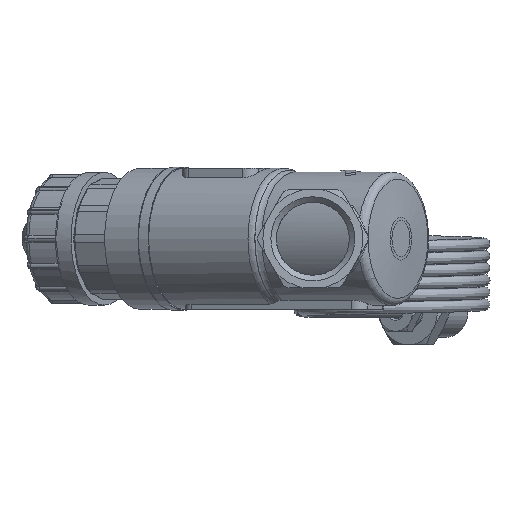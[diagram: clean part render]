
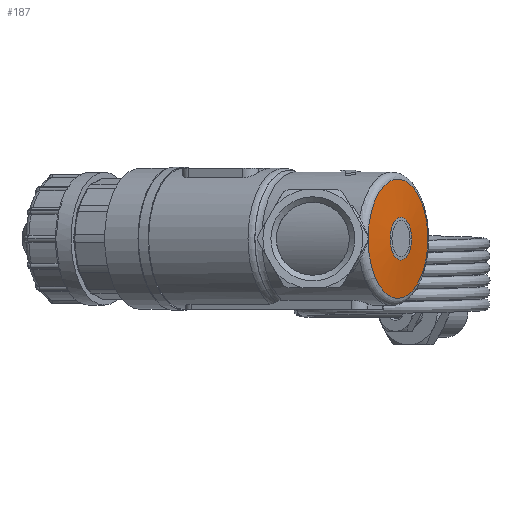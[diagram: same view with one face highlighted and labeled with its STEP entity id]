
A CAD part, left-side view. The second image highlights one B-rep face of the part: STEP entity #187.
In plain terms, the highlighted conical face has half-angle 85 degrees and reference radius 10.358 mm.
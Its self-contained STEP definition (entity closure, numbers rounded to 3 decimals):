
#187=ADVANCED_FACE('',(#3100,#3102),#3104,.T.);
#3100=FACE_OUTER_BOUND('',#3101,.T.);
#3101=EDGE_LOOP('',(#17050));
#3102=FACE_BOUND('',#3103,.T.);
#3103=EDGE_LOOP('',(#17051,#17052,#17053));
#3104=CONICAL_SURFACE('',#3105,10.358,1.484);
#3105=AXIS2_PLACEMENT_3D('',#3106,#3107,#3108);
#3106=CARTESIAN_POINT('',(-12.763,-22.106,0.));
#3107=DIRECTION('',(0.5,0.866,0.));
#3108=DIRECTION('',(0.866,-0.5,0.));
#17050=ORIENTED_EDGE('',*,*,#20569,.F.);
#17051=ORIENTED_EDGE('',*,*,#20483,.F.);
#17052=ORIENTED_EDGE('',*,*,#20477,.T.);
#17053=ORIENTED_EDGE('',*,*,#20482,.F.);
#20477=EDGE_CURVE('',#22346,#22344,#22347,.T.);
#20482=EDGE_CURVE('',#22352,#22344,#22353,.F.);
#20483=EDGE_CURVE('',#22346,#22352,#22354,.F.);
#20569=EDGE_CURVE('',#22491,#22491,#22492,.T.);
#22344=VERTEX_POINT('',#27691);
#22346=VERTEX_POINT('',#27698);
#22347=CIRCLE('',#27699,15.233);
#22352=VERTEX_POINT('',#27731);
#22353=B_SPLINE_CURVE_WITH_KNOTS('',3,
(#27732,#27733,#27734,#27735,#27736,#27737,#27738,#27739),
.UNSPECIFIED.,.F.,.F.,
(4,1,1,1,1,4),
(0.,0.262,0.489,0.692,0.863,1.),
.UNSPECIFIED.);
#22354=B_SPLINE_CURVE_WITH_KNOTS('',3,
(#27740,#27741,#27742,#27743,#27744,#27745,#27746,#27747,#27748,#27749,#27750,#27751,
#27752,#27753,#27754),
.UNSPECIFIED.,.F.,.F.,
(4,1,1,1,1,1,1,1,1,1,1,1,4),
(0.,0.288,0.485,0.586,0.628,0.668,
0.721,0.782,0.843,0.889,0.938,
0.973,1.),
.UNSPECIFIED.);
#22491=VERTEX_POINT('',#28914);
#22492=CIRCLE('',#28915,5.483);
#27691=CARTESIAN_POINT('',(-25.73,-14.127,0.656));
#27698=CARTESIAN_POINT('',(-25.73,-14.127,-0.656));
#27699=AXIS2_PLACEMENT_3D('',#27700,#27701,#27702);
#27700=CARTESIAN_POINT('',(-12.549,-21.736,0.));
#27701=DIRECTION('',(-0.5,-0.866,0.));
#27702=DIRECTION('',(-0.865,0.5,-0.043));
#27731=CARTESIAN_POINT('',(-25.606,-14.215,0.));
#27732=CARTESIAN_POINT('',(-25.73,-14.127,0.656));
#27733=CARTESIAN_POINT('',(-25.712,-14.14,0.602));
#27734=CARTESIAN_POINT('',(-25.674,-14.166,0.501));
#27735=CARTESIAN_POINT('',(-25.639,-14.191,0.35));
#27736=CARTESIAN_POINT('',(-25.618,-14.206,0.217));
#27737=CARTESIAN_POINT('',(-25.608,-14.213,0.101));
#27738=CARTESIAN_POINT('',(-25.606,-14.215,0.031));
#27739=CARTESIAN_POINT('',(-25.606,-14.215,0.));
#27740=CARTESIAN_POINT('',(-25.606,-14.215,0.));
#27741=CARTESIAN_POINT('',(-25.606,-14.215,-0.068));
#27742=CARTESIAN_POINT('',(-25.613,-14.21,-0.182));
#27743=CARTESIAN_POINT('',(-25.634,-14.195,-0.317));
#27744=CARTESIAN_POINT('',(-25.65,-14.184,-0.394));
#27745=CARTESIAN_POINT('',(-25.66,-14.177,-0.435));
#27746=CARTESIAN_POINT('',(-25.667,-14.171,-0.465));
#27747=CARTESIAN_POINT('',(-25.677,-14.164,-0.499));
#27748=CARTESIAN_POINT('',(-25.688,-14.156,-0.536));
#27749=CARTESIAN_POINT('',(-25.698,-14.149,-0.567));
#27750=CARTESIAN_POINT('',(-25.707,-14.143,-0.595));
#27751=CARTESIAN_POINT('',(-25.716,-14.136,-0.619));
#27752=CARTESIAN_POINT('',(-25.724,-14.131,-0.64));
#27753=CARTESIAN_POINT('',(-25.728,-14.128,-0.651));
#27754=CARTESIAN_POINT('',(-25.73,-14.127,-0.656));
#28914=CARTESIAN_POINT('',(-17.725,-19.733,0.));
#28915=AXIS2_PLACEMENT_3D('',#28916,#28917,#28918);
#28916=CARTESIAN_POINT('',(-12.976,-22.475,0.));
#28917=DIRECTION('',(-0.5,-0.866,0.));
#28918=DIRECTION('',(-0.866,0.5,0.));
